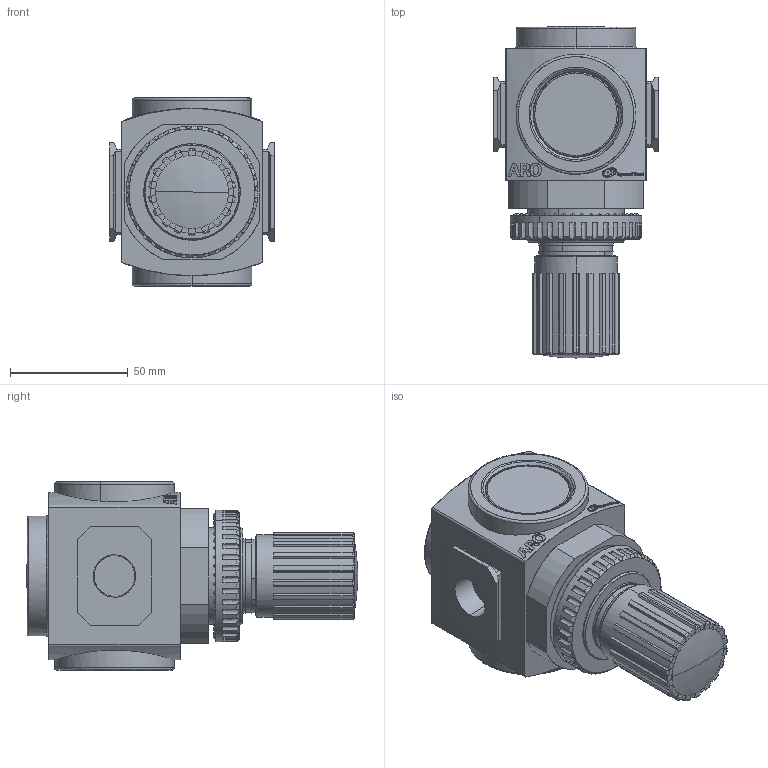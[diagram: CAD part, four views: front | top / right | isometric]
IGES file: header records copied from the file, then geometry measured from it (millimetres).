
Global section: file name: C:\Documents and Settings\szeedyk\Desktop\R373X1-XXX_01.igs; native system: NX V4.0; preprocessor: UGS NX IGES V4.0; date: 20090205.114846; units: inch
Bounding box: 70 x 141.1 x 80 mm (x, y, z)
Surface area: 45348.9 mm2 (no closed solid volume)
Topology: 0 solids, 0 shells, 1326 faces, 7819 edges, 7817 vertices
Faces by surface type: bspline 1326
